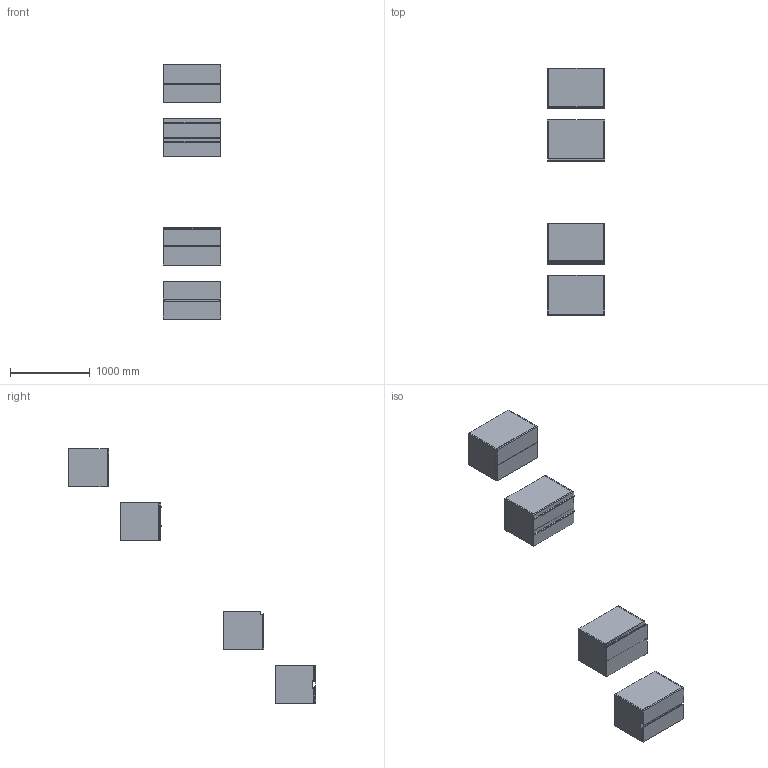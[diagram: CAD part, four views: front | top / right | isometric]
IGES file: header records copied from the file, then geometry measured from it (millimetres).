
Start section: Data from Parasolid IGES Translator 19.0.9, Copyright(c) 2006 Siemens PL M Software. All Rights Reserved.
Global section: file name: noorth-SI-H 48 D 51 W 72_8582.igs; native system: By Siemens PLM Incorporated; preprocessor: XPlus GENERIC/IGES 19.0.9; author: Noname; organization: Noname; date: 20200601.112647; units: metre
Bounding box: 720 x 3107.1 x 3200.01 mm (x, y, z)
Volume: 101071779.5 mm3; surface area: 15384664.7 mm2
Topology: 33 solids, 33 shells, 318 faces, 700 edges, 428 vertices
Faces by surface type: plane 230, extrusion 36, bspline 32, cylinder 20
